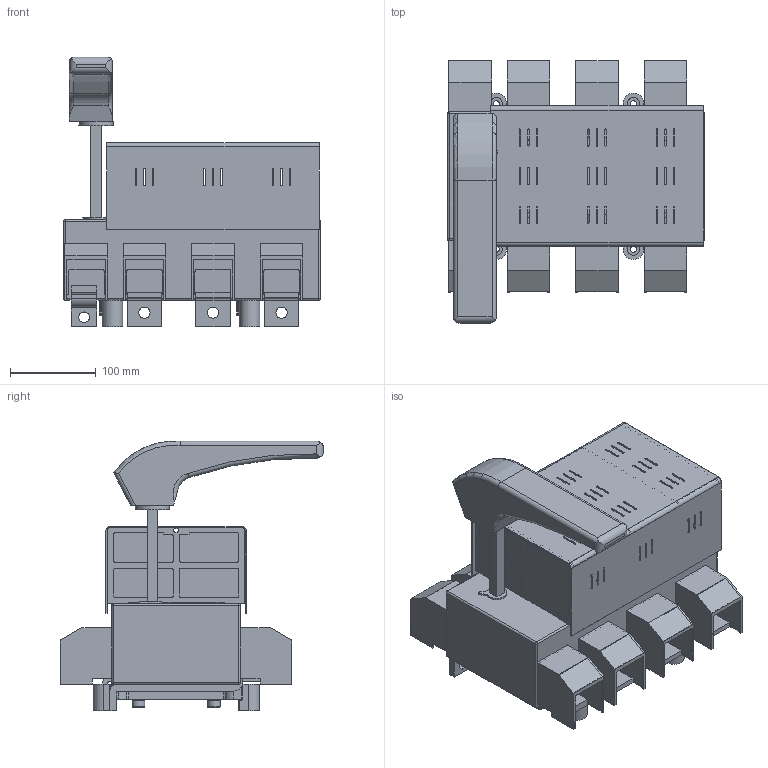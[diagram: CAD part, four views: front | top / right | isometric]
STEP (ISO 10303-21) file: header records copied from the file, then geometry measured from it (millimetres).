
FILE_DESCRIPTION(/* description */ (''),/* implementation_level */ '2;1');
FILE_NAME(/* name */ 'RAB 3 P3 NB-R z oslona zaciskow.stp',/* time_stamp */ '2021-08-19T14:52:33+02:00',/* author */ (''),/* organization */ (''),/* preprocessor_version */ 'ST-DEVELOPER v18.1',/* originating_system */ 'SIEMENS PLM Software NX 1965',/* authorisation */ '');
FILE_SCHEMA (('AUTOMOTIVE_DESIGN { 1 0 10303 214 3 1 1 1 }'));
Length unit declared in the file: millimetre
Products named in the file (1): RAB 3 P3 NB-R z oslona zaciskow
Bounding box: 300 x 307 x 314.5 mm (x, y, z)
Volume: 5117327.1 mm3; surface area: 856606.8 mm2
Topology: 1 solids, 14 shells, 1808 faces, 4935 edges, 3183 vertices
Faces by surface type: plane 1110, cylinder 582, bspline 52, torus 48, sphere 8, cone 8
Full cylindrical faces by diameter (mm): 3 x4, 4.8 x4, 5.2 x2, 5.6 x4, 6.5 x26, 7 x4, 10.5 x26, 12.5 x1, 13 x7, 13.5 x4, 14 x4, 15 x4, 40 x1
Entity records: 59542 total; most frequent: CARTESIAN_POINT 13584, ORIENTED_EDGE 9558, DIRECTION 9402, EDGE_CURVE 4779, LINE 3370, VECTOR 3370, VERTEX_POINT 3147, AXIS2_PLACEMENT_3D 3016
